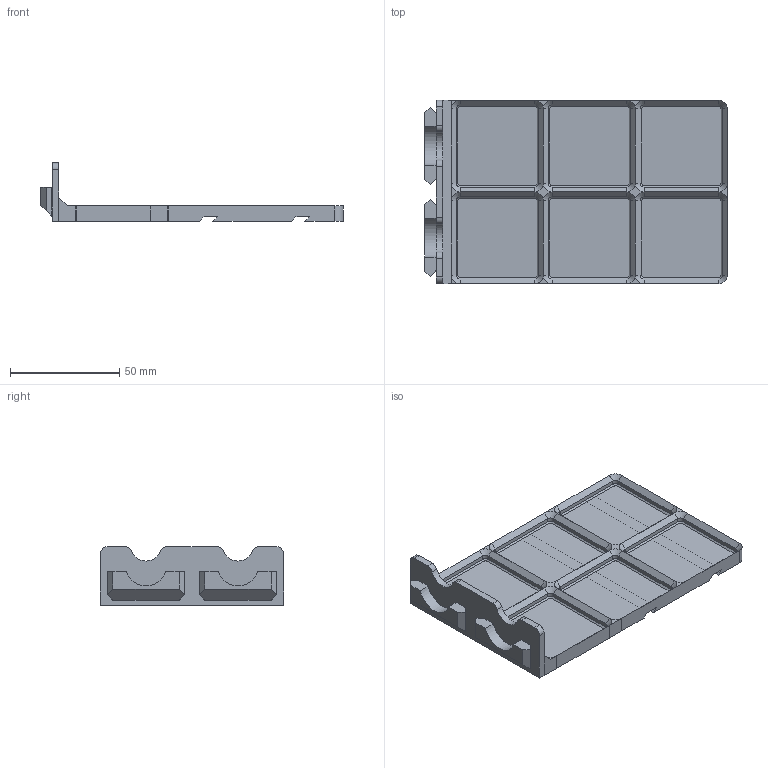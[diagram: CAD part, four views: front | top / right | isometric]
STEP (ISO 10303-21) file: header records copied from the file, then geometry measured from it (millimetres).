
FILE_DESCRIPTION(/* description */ ('','CAx-IF Rec.Pracs.---Representation and Presentation of Product Manufacturing Information (PMI)---4.0---2014-10-13'),/* implementation_level */ '2;1');
FILE_NAME(/* name */ 'Goews 2x Hanger Gridfinity 2x3 Base.step',/* time_stamp */ '2024-11-29T16:31:30-05:00',/* author */ (''),/* organization */ (''),/* preprocessor_version */ 'ST-DEVELOPER v20',/* originating_system */ 'Autodesk Translation Framework v13.20.0.188',/* authorisation */ '');
FILE_SCHEMA (('AP242_MANAGED_MODEL_BASED_3D_ENGINEERING_MIM_LF { 1 0 10303 442 1 1 4 }'));
Length unit declared in the file: millimetre
Products named in the file (1): Goews Double Hanger Gridfinity 2x2 Base
Bounding box: 138.15 x 84 x 26.72 mm (x, y, z)
Volume: 42545.2 mm3; surface area: 32748.7 mm2
Topology: 1 solids, 1 shells, 242 faces, 546 edges, 308 vertices
Faces by surface type: plane 136, cylinder 58, cone 48
Entity records: 6563 total; most frequent: DIRECTION 1176, CARTESIAN_POINT 1097, ORIENTED_EDGE 1092, EDGE_CURVE 546, LINE 402, VECTOR 402, AXIS2_PLACEMENT_3D 387, VERTEX_POINT 308
